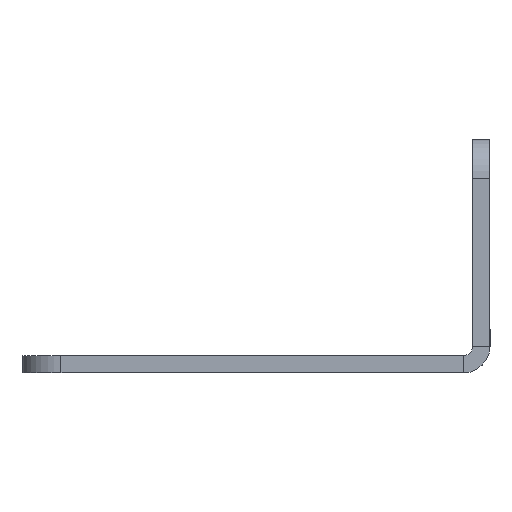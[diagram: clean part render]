
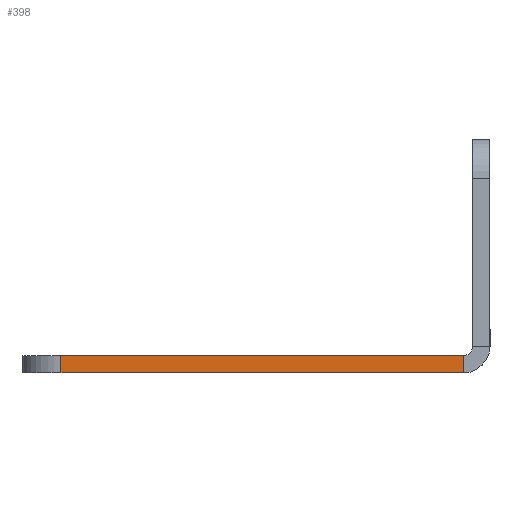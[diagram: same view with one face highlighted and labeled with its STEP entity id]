
A CAD part, left-side view. The second image highlights one B-rep face of the part: STEP entity #398.
In plain terms, the highlighted planar face has unit normal (-1, 0, 0).
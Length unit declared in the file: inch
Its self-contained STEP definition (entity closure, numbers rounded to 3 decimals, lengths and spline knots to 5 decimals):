
#301=CARTESIAN_POINT('',(-29.75,-0.664,0.));
#302=VERTEX_POINT('',#301);
#309=CARTESIAN_POINT('',(-29.75,0.625,0.0));
#310=VERTEX_POINT('',#309);
#311=CARTESIAN_POINT('',(-29.75,-0.664,0.0));
#312=DIRECTION('',(0.0,1.0,0.0));
#313=VECTOR('',#312,1.289);
#314=LINE('',#311,#313);
#315=EDGE_CURVE('',#302,#310,#314,.T.);
#355=CARTESIAN_POINT('',(-29.75,0.625,0.055));
#356=VERTEX_POINT('',#355);
#366=CARTESIAN_POINT('',(-29.75,0.625,0.0));
#367=DIRECTION('',(0.0,0.0,1.0));
#368=VECTOR('',#367,0.055);
#369=LINE('',#366,#368);
#370=EDGE_CURVE('',#310,#356,#369,.T.);
#375=CARTESIAN_POINT('',(-29.75,-0.75,0.0));
#376=DIRECTION('',(-1.0,0.0,0.0));
#377=DIRECTION('',(0.0,0.0,1.0));
#378=AXIS2_PLACEMENT_3D('',#375,#376,#377);
#379=PLANE('',#378);
#380=ORIENTED_EDGE('',*,*,#370,.F.);
#381=ORIENTED_EDGE('',*,*,#315,.F.);
#382=CARTESIAN_POINT('',(-29.75,-0.664,0.055));
#383=VERTEX_POINT('',#382);
#384=CARTESIAN_POINT('',(-29.75,-0.664,0.));
#385=DIRECTION('',(0.0,0.0,1.0));
#386=VECTOR('',#385,0.055);
#387=LINE('',#384,#386);
#388=EDGE_CURVE('',#302,#383,#387,.T.);
#389=ORIENTED_EDGE('',*,*,#388,.T.);
#390=CARTESIAN_POINT('',(-29.75,-0.664,0.055));
#391=DIRECTION('',(0.0,1.0,0.0));
#392=VECTOR('',#391,1.289);
#393=LINE('',#390,#392);
#394=EDGE_CURVE('',#383,#356,#393,.T.);
#395=ORIENTED_EDGE('',*,*,#394,.T.);
#396=EDGE_LOOP('',(#380,#381,#389,#395));
#397=FACE_OUTER_BOUND('',#396,.T.);
#398=ADVANCED_FACE('',(#397),#379,.T.);
